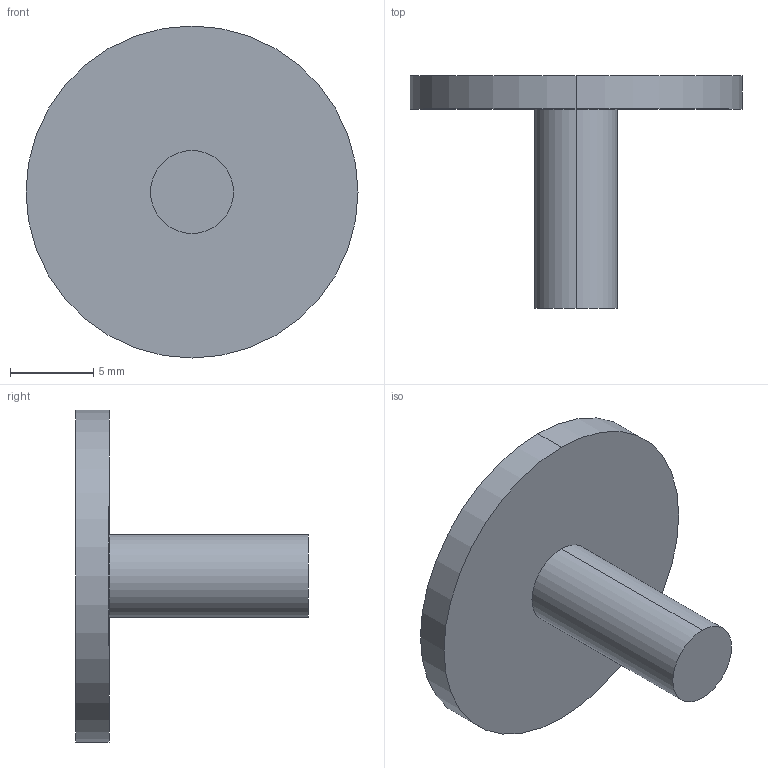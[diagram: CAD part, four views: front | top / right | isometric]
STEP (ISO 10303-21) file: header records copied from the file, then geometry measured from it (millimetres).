
FILE_DESCRIPTION (( 'STEP AP203' ), '1' );
FILE_NAME ('TH23_¶s.STEP', '2012-02-17T08:11:34', ( 'Jeremy' ), ( '' ), 'SwSTEP 2.0', 'SolidWorks 2010', '' );
FILE_SCHEMA (( 'CONFIG_CONTROL_DESIGN' ));
Length unit declared in the file: millimetre
Products named in the file (1): TH23_鈕
Bounding box: 20 x 14 x 20 mm (x, y, z)
Volume: 863.9 mm3; surface area: 942.5 mm2
Topology: 1 solids, 1 shells, 7 faces, 12 edges, 8 vertices
Faces by surface type: cylinder 4, plane 3
Entity records: 251 total; most frequent: DIRECTION 36, CARTESIAN_POINT 28, ORIENTED_EDGE 24, AXIS2_PLACEMENT_3D 16, EDGE_CURVE 12, PERSON_AND_ORGANIZATION 8, EDGE_LOOP 8, CIRCLE 8
